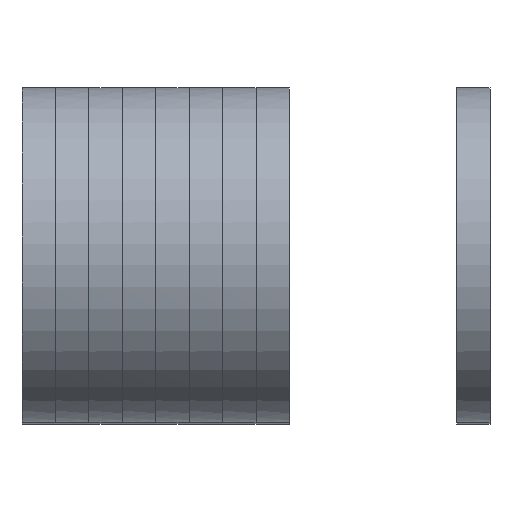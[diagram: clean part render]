
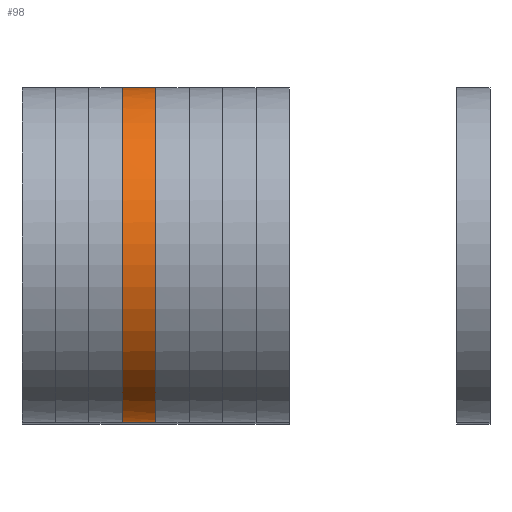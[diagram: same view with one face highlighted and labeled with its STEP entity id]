
A CAD part, top view. The second image highlights one B-rep face of the part: STEP entity #98.
In plain terms, the highlighted free-form (B-spline) face has degree [2, 1] with [9, 2] control points.
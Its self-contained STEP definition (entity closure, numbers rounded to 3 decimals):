
#98=ADVANCED_FACE('',(#104),#260,.T.);
#104=FACE_OUTER_BOUND('',#110,.T.);
#110=EDGE_LOOP('',(#118,#119,#120,#121));
#118=ORIENTED_EDGE('',*,*,#218,.T.);
#119=ORIENTED_EDGE('',*,*,#219,.T.);
#120=ORIENTED_EDGE('',*,*,#220,.T.);
#121=ORIENTED_EDGE('',*,*,#221,.T.);
#142=PCURVE('',#260,#166);
#143=PCURVE('',#260,#167);
#144=PCURVE('',#260,#168);
#145=PCURVE('',#260,#169);
#151=PCURVE('',#258,#175);
#154=PCURVE('',#259,#178);
#159=PCURVE('',#262,#183);
#161=PCURVE('',#262,#185);
#166=DEFINITIONAL_REPRESENTATION('',(#190),#610);
#167=DEFINITIONAL_REPRESENTATION('',(#191),#610);
#168=DEFINITIONAL_REPRESENTATION('',(#192),#610);
#169=DEFINITIONAL_REPRESENTATION('',(#193),#610);
#175=DEFINITIONAL_REPRESENTATION('',(#240),#610);
#178=DEFINITIONAL_REPRESENTATION('',(#244),#610);
#183=DEFINITIONAL_REPRESENTATION('',(#199),#610);
#185=DEFINITIONAL_REPRESENTATION('',(#201),#610);
#190=B_SPLINE_CURVE_WITH_KNOTS('',1,(#473,#474),.UNSPECIFIED.,.F.,.F.,(2,
2),(0.,1.),.UNSPECIFIED.);
#191=B_SPLINE_CURVE_WITH_KNOTS('',1,(#480,#481),.UNSPECIFIED.,.F.,.F.,(2,
2),(-15.708,0.),.UNSPECIFIED.);
#192=B_SPLINE_CURVE_WITH_KNOTS('',1,(#484,#485),.UNSPECIFIED.,.F.,.F.,(2,
2),(-1.,0.),.UNSPECIFIED.);
#193=B_SPLINE_CURVE_WITH_KNOTS('',1,(#491,#492),.UNSPECIFIED.,.F.,.F.,(2,
2),(0.,15.708),.UNSPECIFIED.);
#199=B_SPLINE_CURVE_WITH_KNOTS('',1,(#577,#578),.UNSPECIFIED.,.F.,.F.,(2,
2),(-1.,0.),.UNSPECIFIED.);
#201=B_SPLINE_CURVE_WITH_KNOTS('',1,(#581,#582),.UNSPECIFIED.,.F.,.F.,(2,
2),(0.,1.),.UNSPECIFIED.);
#206=SURFACE_CURVE('',#230,(#142,#161),.PCURVE_S1.);
#207=SURFACE_CURVE('',#231,(#143,#154),.PCURVE_S1.);
#208=SURFACE_CURVE('',#232,(#144,#159),.PCURVE_S1.);
#209=SURFACE_CURVE('',#233,(#145,#151),.PCURVE_S1.);
#218=EDGE_CURVE('',#254,#255,#206,.T.);
#219=EDGE_CURVE('',#255,#251,#207,.T.);
#220=EDGE_CURVE('',#251,#250,#208,.T.);
#221=EDGE_CURVE('',#250,#254,#209,.T.);
#230=(
BOUNDED_CURVE()
B_SPLINE_CURVE(1,(#471,#472),.UNSPECIFIED.,.F.,.F.)
B_SPLINE_CURVE_WITH_KNOTS((2,2),(0.,1.),.UNSPECIFIED.)
CURVE()
GEOMETRIC_REPRESENTATION_ITEM()
RATIONAL_B_SPLINE_CURVE((1.,1.))
REPRESENTATION_ITEM('')
);
#231=(
BOUNDED_CURVE()
B_SPLINE_CURVE(2,(#475,#476,#477,#478,#479),.UNSPECIFIED.,.F.,.F.)
B_SPLINE_CURVE_WITH_KNOTS((3,2,3),(-15.708,-7.854,0.),
 .UNSPECIFIED.)
CURVE()
GEOMETRIC_REPRESENTATION_ITEM()
RATIONAL_B_SPLINE_CURVE((1.,0.707,1.,0.707,1.))
REPRESENTATION_ITEM('')
);
#232=(
BOUNDED_CURVE()
B_SPLINE_CURVE(1,(#482,#483),.UNSPECIFIED.,.F.,.F.)
B_SPLINE_CURVE_WITH_KNOTS((2,2),(-1.,0.),.UNSPECIFIED.)
CURVE()
GEOMETRIC_REPRESENTATION_ITEM()
RATIONAL_B_SPLINE_CURVE((1.,1.))
REPRESENTATION_ITEM('')
);
#233=(
BOUNDED_CURVE()
B_SPLINE_CURVE(2,(#486,#487,#488,#489,#490),.UNSPECIFIED.,.F.,.F.)
B_SPLINE_CURVE_WITH_KNOTS((3,2,3),(0.,7.854,15.708),
 .UNSPECIFIED.)
CURVE()
GEOMETRIC_REPRESENTATION_ITEM()
RATIONAL_B_SPLINE_CURVE((1.,0.707,1.,0.707,1.))
REPRESENTATION_ITEM('')
);
#240=(
BOUNDED_CURVE()
B_SPLINE_CURVE(2,(#525,#526,#527,#528,#529),.UNSPECIFIED.,.F.,.F.)
B_SPLINE_CURVE_WITH_KNOTS((3,2,3),(0.,7.854,15.708),
 .UNSPECIFIED.)
CURVE()
GEOMETRIC_REPRESENTATION_ITEM()
RATIONAL_B_SPLINE_CURVE((1.,0.707,1.,0.707,1.))
REPRESENTATION_ITEM('')
);
#244=(
BOUNDED_CURVE()
B_SPLINE_CURVE(2,(#545,#546,#547,#548,#549),.UNSPECIFIED.,.F.,.F.)
B_SPLINE_CURVE_WITH_KNOTS((3,2,3),(-15.708,-7.854,0.),
 .UNSPECIFIED.)
CURVE()
GEOMETRIC_REPRESENTATION_ITEM()
RATIONAL_B_SPLINE_CURVE((1.,0.707,1.,0.707,1.))
REPRESENTATION_ITEM('')
);
#250=VERTEX_POINT('',#463);
#251=VERTEX_POINT('',#464);
#254=VERTEX_POINT('',#467);
#255=VERTEX_POINT('',#468);
#258=PLANE('',#322);
#259=PLANE('',#323);
#260=(
BOUNDED_SURFACE()
B_SPLINE_SURFACE(2,1,((#389,#390),(#391,#392),(#393,#394),(#395,#396),(#397,
#398),(#399,#400),(#401,#402),(#403,#404),(#405,#406)),.UNSPECIFIED.,.T.,
 .F.,.F.)
B_SPLINE_SURFACE_WITH_KNOTS((3,2,2,2,3),(2,2),(0.,7.854,15.708,
23.562,31.416),(0.,1.),.UNSPECIFIED.)
GEOMETRIC_REPRESENTATION_ITEM()
RATIONAL_B_SPLINE_SURFACE(((1.,1.),(0.707,0.707),
(1.,1.),(0.707,0.707),(1.,1.),(0.707,
0.707),(1.,1.),(0.707,0.707),(1.,1.)))
REPRESENTATION_ITEM('')
SURFACE()
);
#262=(
BOUNDED_SURFACE()
B_SPLINE_SURFACE(2,1,((#427,#428),(#429,#430),(#431,#432),(#433,#434),(#435,
#436),(#437,#438),(#439,#440),(#441,#442),(#443,#444)),.UNSPECIFIED.,.T.,
 .F.,.F.)
B_SPLINE_SURFACE_WITH_KNOTS((3,2,2,2,3),(2,2),(0.,7.854,15.708,
23.562,31.416),(0.,1.),.UNSPECIFIED.)
GEOMETRIC_REPRESENTATION_ITEM()
RATIONAL_B_SPLINE_SURFACE(((1.,1.),(0.707,0.707),
(1.,1.),(0.707,0.707),(1.,1.),(0.707,
0.707),(1.,1.),(0.707,0.707),(1.,1.)))
REPRESENTATION_ITEM('')
SURFACE()
);
#322=AXIS2_PLACEMENT_3D('',#425,#347,$);
#323=AXIS2_PLACEMENT_3D('',#426,#348,$);
#347=DIRECTION('',(-1.,0.,0.));
#348=DIRECTION('',(1.,0.,0.));
#389=CARTESIAN_POINT('',(-1.,5.,0.));
#390=CARTESIAN_POINT('',(0.,5.,0.));
#391=CARTESIAN_POINT('',(-1.,5.,5.));
#392=CARTESIAN_POINT('',(0.,5.,5.));
#393=CARTESIAN_POINT('',(-1.,0.,5.));
#394=CARTESIAN_POINT('',(0.,0.,5.));
#395=CARTESIAN_POINT('',(-1.,-5.,5.));
#396=CARTESIAN_POINT('',(0.,-5.,5.));
#397=CARTESIAN_POINT('',(-1.,-5.,0.));
#398=CARTESIAN_POINT('',(0.,-5.,0.));
#399=CARTESIAN_POINT('',(-1.,-5.,-5.));
#400=CARTESIAN_POINT('',(0.,-5.,-5.));
#401=CARTESIAN_POINT('',(-1.,0.,-5.));
#402=CARTESIAN_POINT('',(0.,0.,-5.));
#403=CARTESIAN_POINT('',(-1.,5.,-5.));
#404=CARTESIAN_POINT('',(0.,5.,-5.));
#405=CARTESIAN_POINT('',(-1.,5.,0.));
#406=CARTESIAN_POINT('',(0.,5.,0.));
#425=CARTESIAN_POINT('',(-1.,-6.25,-6.25));
#426=CARTESIAN_POINT('',(0.,-6.25,-6.25));
#427=CARTESIAN_POINT('',(-1.,5.,0.));
#428=CARTESIAN_POINT('',(0.,5.,0.));
#429=CARTESIAN_POINT('',(-1.,5.,5.));
#430=CARTESIAN_POINT('',(0.,5.,5.));
#431=CARTESIAN_POINT('',(-1.,0.,5.));
#432=CARTESIAN_POINT('',(0.,0.,5.));
#433=CARTESIAN_POINT('',(-1.,-5.,5.));
#434=CARTESIAN_POINT('',(0.,-5.,5.));
#435=CARTESIAN_POINT('',(-1.,-5.,0.));
#436=CARTESIAN_POINT('',(0.,-5.,0.));
#437=CARTESIAN_POINT('',(-1.,-5.,-5.));
#438=CARTESIAN_POINT('',(0.,-5.,-5.));
#439=CARTESIAN_POINT('',(-1.,0.,-5.));
#440=CARTESIAN_POINT('',(0.,0.,-5.));
#441=CARTESIAN_POINT('',(-1.,5.,-5.));
#442=CARTESIAN_POINT('',(0.,5.,-5.));
#443=CARTESIAN_POINT('',(-1.,5.,0.));
#444=CARTESIAN_POINT('',(0.,5.,0.));
#463=CARTESIAN_POINT('',(-1.,5.,0.));
#464=CARTESIAN_POINT('',(0.,5.,0.));
#467=CARTESIAN_POINT('',(-1.,-5.,0.));
#468=CARTESIAN_POINT('',(0.,-5.,0.));
#471=CARTESIAN_POINT('',(-1.,-5.,0.));
#472=CARTESIAN_POINT('',(0.,-5.,0.));
#473=CARTESIAN_POINT('',(15.708,0.));
#474=CARTESIAN_POINT('',(15.708,1.));
#475=CARTESIAN_POINT('',(0.,-5.,0.));
#476=CARTESIAN_POINT('',(0.,-5.,5.));
#477=CARTESIAN_POINT('',(0.,0.,5.));
#478=CARTESIAN_POINT('',(0.,5.,5.));
#479=CARTESIAN_POINT('',(0.,5.,0.));
#480=CARTESIAN_POINT('',(15.708,1.));
#481=CARTESIAN_POINT('',(0.,1.));
#482=CARTESIAN_POINT('',(0.,5.,0.));
#483=CARTESIAN_POINT('',(-1.,5.,0.));
#484=CARTESIAN_POINT('',(0.,1.));
#485=CARTESIAN_POINT('',(0.,0.));
#486=CARTESIAN_POINT('',(-1.,5.,0.));
#487=CARTESIAN_POINT('',(-1.,5.,5.));
#488=CARTESIAN_POINT('',(-1.,0.,5.));
#489=CARTESIAN_POINT('',(-1.,-5.,5.));
#490=CARTESIAN_POINT('',(-1.,-5.,0.));
#491=CARTESIAN_POINT('',(0.,0.));
#492=CARTESIAN_POINT('',(15.708,0.));
#525=CARTESIAN_POINT('',(0.,0.));
#526=CARTESIAN_POINT('',(5.,0.));
#527=CARTESIAN_POINT('',(5.,-5.));
#528=CARTESIAN_POINT('',(5.,-10.));
#529=CARTESIAN_POINT('',(0.,-10.));
#545=CARTESIAN_POINT('',(-10.,0.));
#546=CARTESIAN_POINT('',(-10.,5.));
#547=CARTESIAN_POINT('',(-5.,5.));
#548=CARTESIAN_POINT('',(0.,5.));
#549=CARTESIAN_POINT('',(0.,0.));
#577=CARTESIAN_POINT('',(31.416,1.));
#578=CARTESIAN_POINT('',(31.416,0.));
#581=CARTESIAN_POINT('',(15.708,0.));
#582=CARTESIAN_POINT('',(15.708,1.));
#610=(
GEOMETRIC_REPRESENTATION_CONTEXT(2)
PARAMETRIC_REPRESENTATION_CONTEXT()
REPRESENTATION_CONTEXT('pspace','')
);
